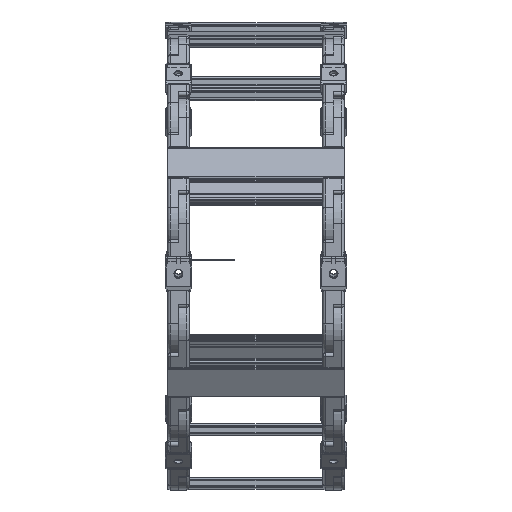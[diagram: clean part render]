
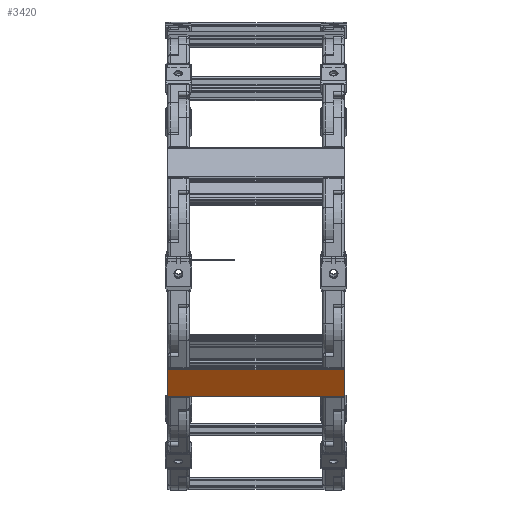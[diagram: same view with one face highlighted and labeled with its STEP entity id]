
A CAD part, front view. The second image highlights one B-rep face of the part: STEP entity #3420.
In plain terms, the highlighted planar face has unit normal (0, -0.847, -0.531) as drawn and (0, 0, -1) by its records, which use the part's own axes.
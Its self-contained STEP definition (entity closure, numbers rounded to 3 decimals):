
#2374=CARTESIAN_POINT('',(132.0,25.75,-24.5));
#2375=VERTEX_POINT('',#2374);
#2383=CARTESIAN_POINT('',(132.0,49.25,-24.5));
#2384=VERTEX_POINT('',#2383);
#2385=CARTESIAN_POINT('',(132.0,49.25,-24.5));
#2386=DIRECTION('',(0.0,-1.0,0.0));
#2387=VECTOR('',#2386,23.5);
#2388=LINE('',#2385,#2387);
#2389=EDGE_CURVE('',#2384,#2375,#2388,.T.);
#3364=CARTESIAN_POINT('',(0.,49.25,-24.5));
#3365=VERTEX_POINT('',#3364);
#3366=CARTESIAN_POINT('',(0.,49.25,-24.5));
#3367=DIRECTION('',(1.0,0.0,0.0));
#3368=VECTOR('',#3367,132.0);
#3369=LINE('',#3366,#3368);
#3370=EDGE_CURVE('',#3365,#2384,#3369,.T.);
#3397=CARTESIAN_POINT('',(0.,49.25,-24.5));
#3398=DIRECTION('',(0.0,0.0,-1.0));
#3399=DIRECTION('',(1.0,0.0,0.0));
#3400=AXIS2_PLACEMENT_3D('',#3397,#3398,#3399);
#3401=PLANE('',#3400);
#3402=ORIENTED_EDGE('',*,*,#2389,.T.);
#3403=CARTESIAN_POINT('',(0.,25.75,-24.5));
#3404=VERTEX_POINT('',#3403);
#3405=CARTESIAN_POINT('',(0.,25.75,-24.5));
#3406=DIRECTION('',(1.0,0.0,0.0));
#3407=VECTOR('',#3406,132.0);
#3408=LINE('',#3405,#3407);
#3409=EDGE_CURVE('',#3404,#2375,#3408,.T.);
#3410=ORIENTED_EDGE('',*,*,#3409,.F.);
#3411=CARTESIAN_POINT('',(0.,25.75,-24.5));
#3412=DIRECTION('',(0.0,1.0,0.0));
#3413=VECTOR('',#3412,23.5);
#3414=LINE('',#3411,#3413);
#3415=EDGE_CURVE('',#3404,#3365,#3414,.T.);
#3416=ORIENTED_EDGE('',*,*,#3415,.T.);
#3417=ORIENTED_EDGE('',*,*,#3370,.T.);
#3418=EDGE_LOOP('',(#3402,#3410,#3416,#3417));
#3419=FACE_OUTER_BOUND('',#3418,.T.);
#3420=ADVANCED_FACE('',(#3419),#3401,.T.);
